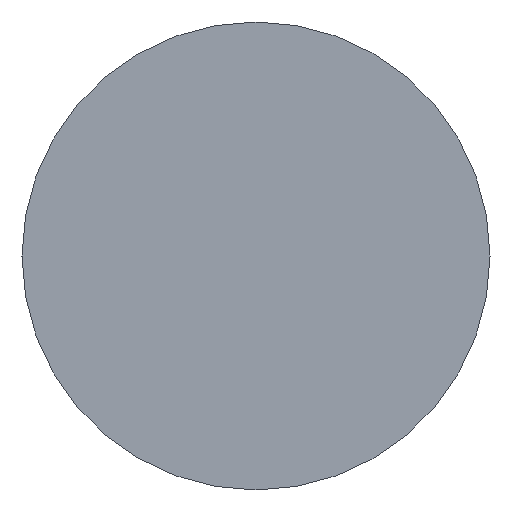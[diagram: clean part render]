
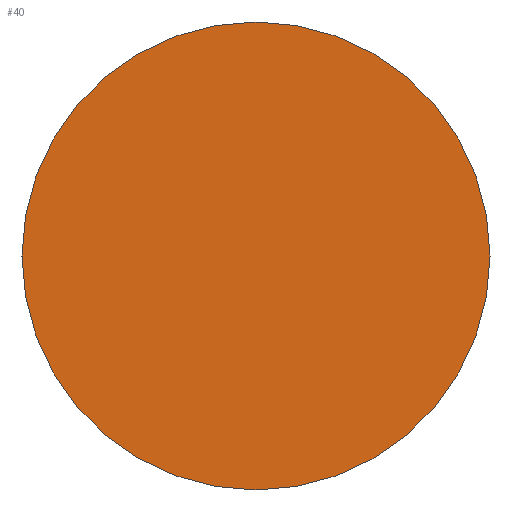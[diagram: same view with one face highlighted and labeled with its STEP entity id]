
A CAD part, front view. The second image highlights one B-rep face of the part: STEP entity #40.
In plain terms, the highlighted planar face has unit normal (0, -1, 0).
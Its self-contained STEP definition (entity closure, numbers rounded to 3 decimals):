
#15=PLANE('',#59);
#18=FACE_OUTER_BOUND('',#21,.T.);
#21=EDGE_LOOP('',(#36));
#26=CIRCLE('',#58,2.);
#28=VERTEX_POINT('',#78);
#31=EDGE_CURVE('',#28,#28,#26,.T.);
#36=ORIENTED_EDGE('',*,*,#31,.T.);
#40=ADVANCED_FACE('',(#18),#15,.T.);
#58=AXIS2_PLACEMENT_3D('',#80,#68,#69);
#59=AXIS2_PLACEMENT_3D('',#81,#70,#71);
#68=DIRECTION('center_axis',(0.,-1.,0.));
#69=DIRECTION('ref_axis',(1.,0.,0.));
#70=DIRECTION('center_axis',(0.,-1.,0.));
#71=DIRECTION('ref_axis',(1.,0.,0.));
#78=CARTESIAN_POINT('',(7.915,-368.1,74.281));
#80=CARTESIAN_POINT('Origin',(9.915,-368.1,74.281));
#81=CARTESIAN_POINT('Origin',(9.915,-368.1,74.281));
